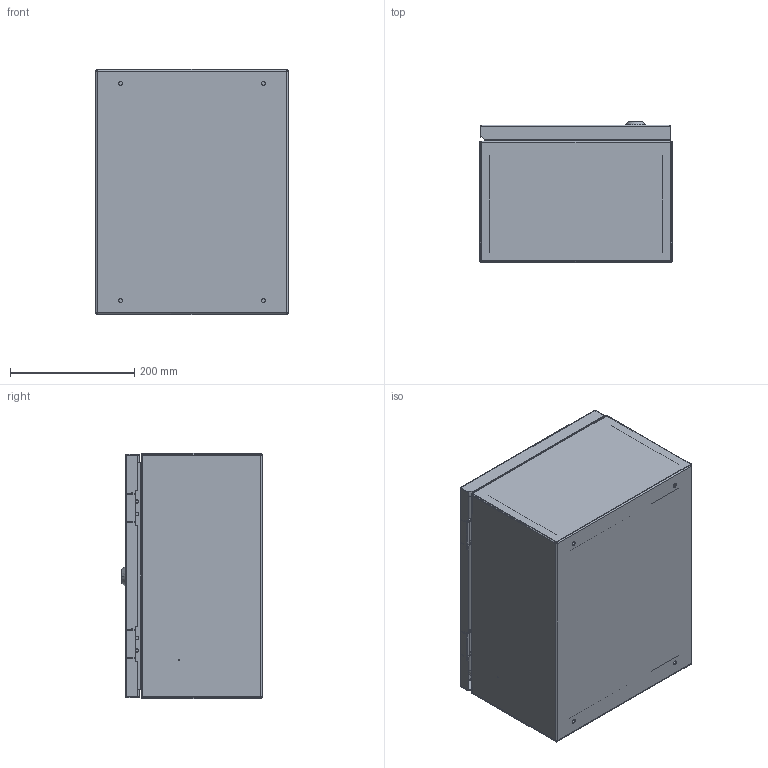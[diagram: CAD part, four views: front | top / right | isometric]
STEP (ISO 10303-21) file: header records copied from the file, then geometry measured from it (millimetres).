
FILE_DESCRIPTION (( 'STEP AP214' ), '1' );
FILE_NAME ('ÙÌÏ-01-395õ310õ220-IP54-ÓÕË2-ÊÝÀÇ.STEP', '2023-01-24T12:22:09', ( '' ), ( '' ), 'SwSTEP 2.0', 'SolidWorks 2018', '' );
FILE_SCHEMA (( 'AUTOMOTIVE_DESIGN' ));
Length unit declared in the file: millimetre
Products named in the file (1): ÙÌÏ-01-395õ310õ220-IP54-ÓÕË2-ÊÝÀÇ
Bounding box: 310 x 226.7 x 395 mm (x, y, z)
Surface area: 1141409.3 mm2 (no closed solid volume)
Topology: 0 solids, 29 shells, 199 faces, 685 edges, 504 vertices
Faces by surface type: plane 101, cylinder 68, bspline 14, torus 14, cone 2
Entity records: 11093 total; most frequent: CARTESIAN_POINT 3095, DIRECTION 1207, ORIENTED_EDGE 994, EDGE_CURVE 685, VERTEX_POINT 504, VECTOR 403, LINE 403, AXIS2_PLACEMENT_3D 402
